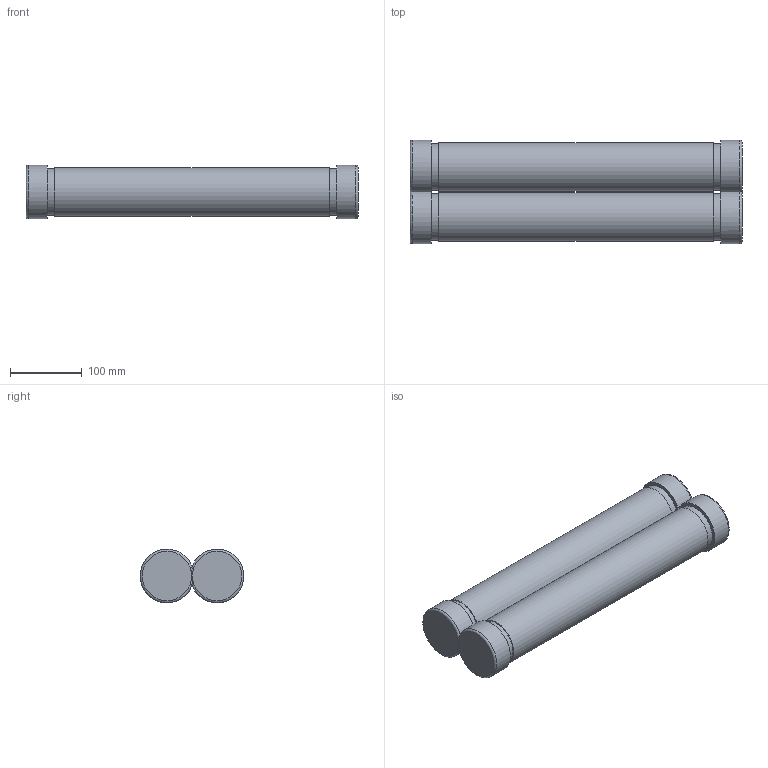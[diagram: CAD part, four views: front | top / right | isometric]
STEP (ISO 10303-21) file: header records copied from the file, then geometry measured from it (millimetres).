
FILE_DESCRIPTION (( 'STEP AP214' ), '1' );
FILE_NAME ('眈襝鍙 玾-1.3-10.STEP', '2023-03-03T11:05:14', ( '' ), ( '' ), 'SwSTEP 2.0', 'SolidWorks 2018', '' );
FILE_SCHEMA (( 'AUTOMOTIVE_DESIGN' ));
Length unit declared in the file: millimetre
Products named in the file (1): 眈襝鍙 玾-1.3-10
Bounding box: 464 x 145 x 75 mm (x, y, z)
Volume: 1677827.8 mm3; surface area: 368320.8 mm2
Topology: 1 solids, 3 shells, 30 faces, 50 edges, 32 vertices
Faces by surface type: plane 14, cylinder 12, torus 4
Full cylindrical faces by diameter (mm): 50 x2, 65 x4, 68 x2
Entity records: 726 total; most frequent: CARTESIAN_POINT 175, DIRECTION 122, ORIENTED_EDGE 68, AXIS2_PLACEMENT_3D 59, EDGE_LOOP 50, FACE_OUTER_BOUND 42, EDGE_CURVE 34, ADVANCED_FACE 30
